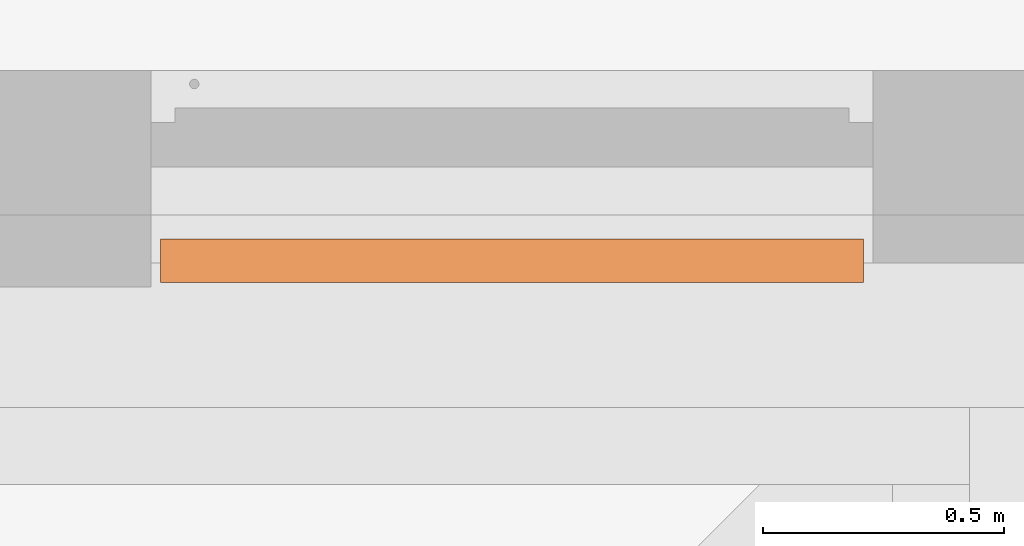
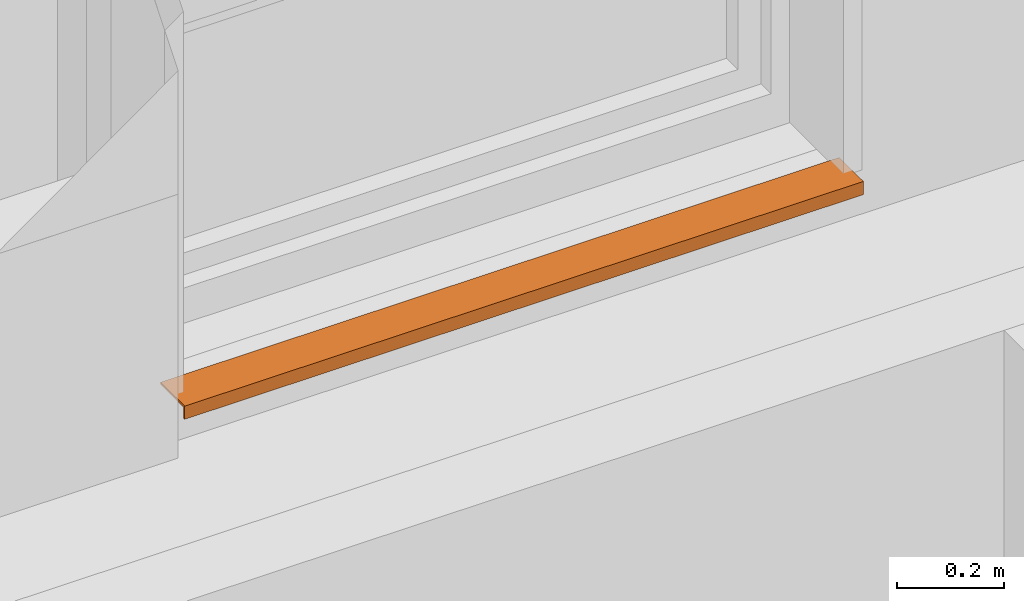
# One storey, part 50 of 50: 1 proxy.
"""IFC4 building model written with IfcOpenShell, lengths in metres."""

from ifc_helpers import new_model, entity, si_unit, converted_unit, derived_unit, frame, origin, origin_with_axes, place, context, subcontext, project, spatial, faceted_brep, source, transform, mapped, material, element, save


model = new_model("IFC4")

# Units and contexts
model_context = context("Model", 3, precision=1e-05, world=origin())
body_context = subcontext(model_context, "Body", "Model", "MODEL_VIEW")
ifc_project = project(units=[si_unit("LENGTHUNIT", "METRE"), si_unit("AREAUNIT", "SQUARE_METRE"), si_unit("VOLUMEUNIT", "CUBIC_METRE"), si_unit("MASSUNIT", "GRAM", prefix="KILO"), converted_unit("PLANEANGLEUNIT", "DEGREE", entity("IfcPlaneAngleMeasure", 0.0174532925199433), si_unit("PLANEANGLEUNIT", "RADIAN"), dimensions=[0, 0, 0, 0, 0, 0, 0]), derived_unit("THERMALTRANSMITTANCEUNIT", [(si_unit("POWERUNIT", "WATT"), 1), (si_unit("THERMODYNAMICTEMPERATUREUNIT", "KELVIN"), -1), (si_unit("LENGTHUNIT", "METRE"), -2)]), derived_unit("VOLUMETRICFLOWRATEUNIT", [(si_unit("LENGTHUNIT", "METRE"), 3), (converted_unit("TIMEUNIT", "hour", entity("IfcTimeMeasure", 3600.0), si_unit("TIMEUNIT", "SECOND"), dimensions=[0, 0, 1, 0, 0, 0, 0]), -1), (si_unit("LENGTHUNIT", "METRE"), -1)])], contexts=[model_context])

# Site, building, storey
site_placement = place(None, origin())
site = spatial("IfcSite", under=ifc_project, at=site_placement, Name="3. ASŘ", CompositionType="ELEMENT")
building_placement = place(site_placement, origin())
building = spatial("IfcBuilding", under=site, at=building_placement, Name="Pavilon C", CompositionType="ELEMENT")
storey_placement = place(building_placement, frame((0.0, 0.0, 3.6)))
storey = spatial("IfcBuildingStorey", under=building, at=storey_placement, Name="Půdorys 2.NP", CompositionType="ELEMENT", Elevation=3.6)

# Proxy
ifc_material = material(Name="HLINÍKOVÝ PLECH ELOXOVANÝ")
shared_shape = source(origin_with_axes(), body_context, "Body", "Brep", [
    faceted_brep([(0.02, 0.04, 0.025), (0.02, 0.09, 0.025), (0.02, 0.09, 0.03), (0.02, 0.04, 0.03), (1.44, 0.04, 0.025), (1.44, 0.04, 0.03), (1.44, 0.09, 0.03), (1.44, 0.09, 0.025), (0.0, 0.04, 0.025), (0.0, 0.005, 0.025), (1.46, 0.005, 0.025), (1.46, 0.04, 0.025), (1.46, 0.04, 0.03), (1.46, 0.0, 0.03), (0.0, 0.0, 0.03), (0.0, 0.04, 0.03), (0.0, 0.0, 0.0), (0.0, 0.005, 0.0), (1.46, 0.005, 0.0), (1.46, 0.0, 0.0)], [[[0, 1, 2, 3]], [[4, 5, 6, 7]], [[1, 0, 8, 9, 10, 11, 4, 7]], [[2, 1, 7, 6]], [[3, 2, 6, 5, 12, 13, 14, 15]], [[8, 15, 14, 16, 17, 9]], [[11, 10, 18, 19, 13, 12]], [[15, 8, 0, 3]], [[5, 4, 11, 12]], [[16, 14, 13, 19]], [[17, 16, 19, 18]], [[9, 17, 18, 10]]], orient=[[False], [False], [False], [False], [False], [False], [False], [False], [False], [False], [False], [False]]),
    faceted_brep([(0.0, 0.04, 0.025), (0.0, 0.09, 0.025), (0.0, 0.09, 0.03), (0.0, 0.04, 0.03), (0.02, 0.04, 0.025), (0.02, 0.04, 0.03), (0.02, 0.09, 0.03), (0.02, 0.09, 0.025)], [[[0, 1, 2, 3]], [[4, 5, 6, 7]], [[1, 0, 4, 7]], [[2, 1, 7, 6]], [[3, 2, 6, 5]], [[0, 3, 5, 4]]], orient=[[False], [False], [False], [False], [False], [False]]),
    faceted_brep([(1.44, 0.04, 0.025), (1.44, 0.09, 0.025), (1.44, 0.09, 0.03), (1.44, 0.04, 0.03), (1.46, 0.04, 0.025), (1.46, 0.04, 0.03), (1.46, 0.09, 0.03), (1.46, 0.09, 0.025)], [[[0, 1, 2, 3]], [[4, 5, 6, 7]], [[1, 0, 4, 7]], [[2, 1, 7, 6]], [[3, 2, 6, 5]], [[0, 3, 5, 4]]], orient=[[False], [False], [False], [False], [False], [False]]),
])
proxy_placement = place(storey_placement, frame((41.67, -4.64, 1.025)))
element("IfcBuildingElementProxy", 1, at=proxy_placement, inside=storey, material=ifc_material, Name="Parapet vnější", context=body_context, shape_type="MappedRepresentation", body=[
    mapped(shared_shape, transform((0.0, 0.0, 0.0), x_axis=(1.0, 0.0, 0.0), y_axis=(0.0, 1.0, 0.0), z_axis=(0.0, 0.0, 1.0), scale=1.0)),
])

save(model, "model.ifc")
